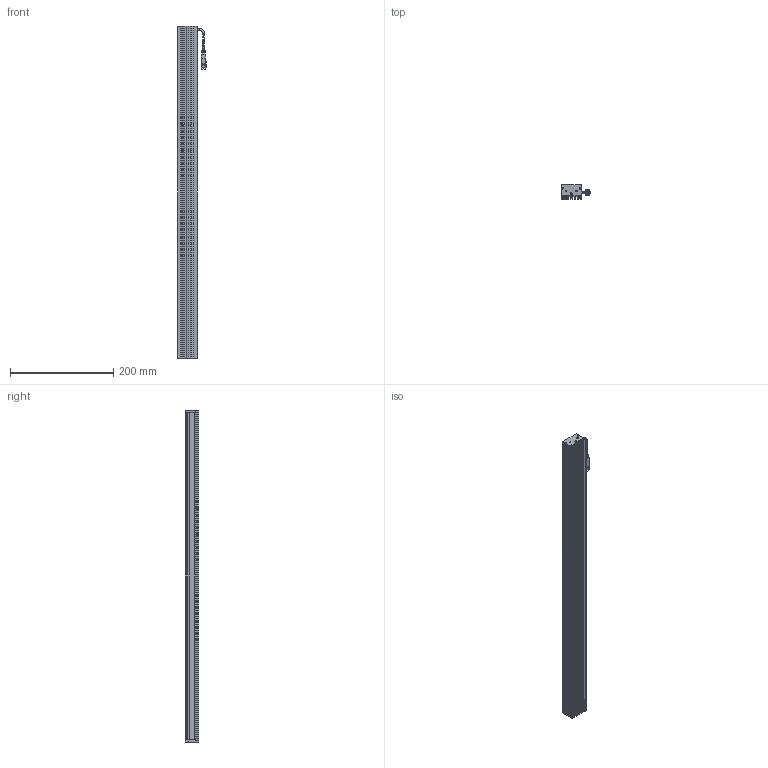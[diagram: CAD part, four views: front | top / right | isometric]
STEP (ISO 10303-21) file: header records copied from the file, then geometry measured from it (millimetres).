
FILE_DESCRIPTION (( 'STEP AP203' ), '1' );
FILE_NAME ('CK-BL64238.STEP', '2026-01-28T05:55:43', ( '' ), ( '' ), 'SwSTEP 2.0', 'SolidWorks 2022', '' );
FILE_SCHEMA (( 'CONFIG_CONTROL_DESIGN' ));
Length unit declared in the file: millimetre
Products named in the file (6): 十字沉头螺丝 M2x10; CK-BL64238-003A; CK64238-001A; CK-BL64238; CK-BL64238-002A; 光源线
Assembly tree (11 placements, depth 2):
  CK-BL64238
    CK64238-001A
    CK-BL64238-002A  x2
    CK-BL64238-003A
    光源线
    十字沉头螺丝 M2x10  x6
Bounding box: 55.84 x 27 x 642 mm (x, y, z)
Volume: 261112.8 mm3; surface area: 225089.7 mm2
Topology: 13 solids, 13 shells, 641 faces, 1692 edges, 1082 vertices
Faces by surface type: plane 353, cylinder 210, cone 46, bspline 32
Entity records: 16373 total; most frequent: CARTESIAN_POINT 3399, ORIENTED_EDGE 2598, DIRECTION 2515, EDGE_CURVE 1299, VECTOR 875, LINE 875, VERTEX_POINT 846, AXIS2_PLACEMENT_3D 820
